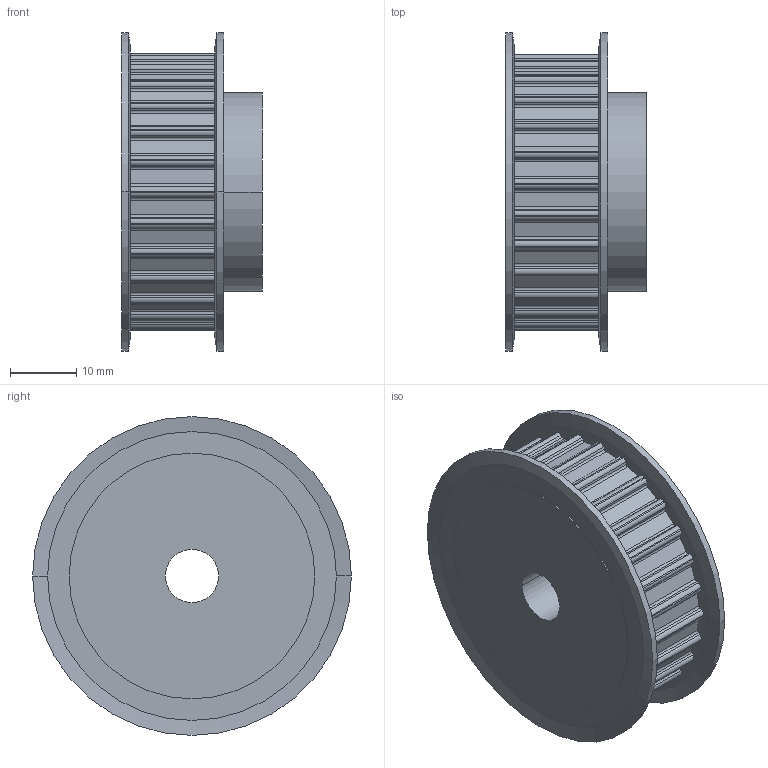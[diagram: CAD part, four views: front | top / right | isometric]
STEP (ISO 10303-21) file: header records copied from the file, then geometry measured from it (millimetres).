
FILE_DESCRIPTION( ( '' ), '1' );
FILE_NAME( 'C:/Users/Stangenbergd/Documents/CAD_Step/1/16622700.stp', '2021-10-19T09:34:15', ( '' ), ( '' ), ' ', ' ', ' ' );
FILE_SCHEMA( ( 'CONFIG_CONTROL_DESIGN' ) );
Length unit declared in the file: millimetre
Products named in the file (1): 1
Bounding box: 21.17 x 48 x 48 mm (x, y, z)
Volume: 23312.3 mm3; surface area: 8014.1 mm2
Topology: 1 solids, 1 shells, 244 faces, 703 edges, 466 vertices
Faces by surface type: cylinder 148, plane 88, cone 8
Entity records: 8175 total; most frequent: DIRECTION 1497, CARTESIAN_POINT 1414, ORIENTED_EDGE 1406, EDGE_CURVE 703, AXIS2_PLACEMENT_3D 549, VERTEX_POINT 466, LINE 399, VECTOR 399
